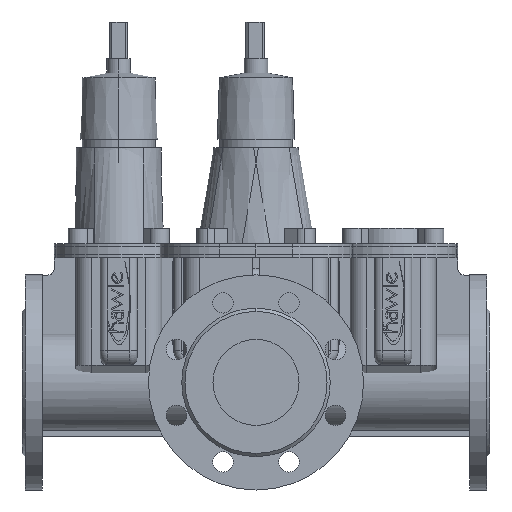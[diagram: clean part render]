
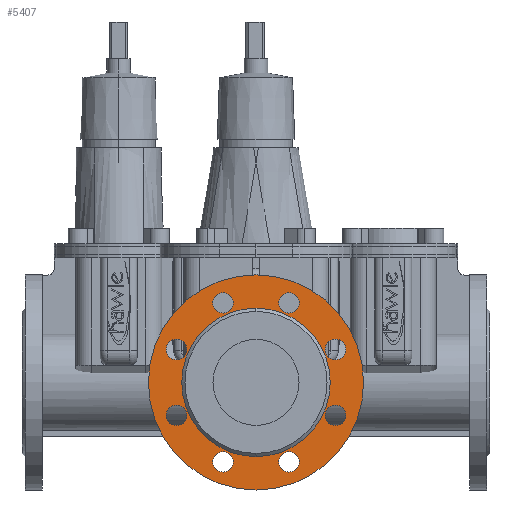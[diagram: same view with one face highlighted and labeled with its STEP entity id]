
A CAD part, left-side view. The second image highlights one B-rep face of the part: STEP entity #5407.
In plain terms, the highlighted planar face has unit normal (-1, 0, 0).
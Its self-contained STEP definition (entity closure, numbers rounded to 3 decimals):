
#5407=ADVANCED_FACE('',(#10454,#10455,#10456,#10457,#10458,#10459,#10460,#10461,#10462,#10463),#10464,.F.);
#10454=FACE_BOUND('',#17028,.T.);
#10455=FACE_BOUND('',#17029,.T.);
#10456=FACE_BOUND('',#17030,.T.);
#10457=FACE_BOUND('',#17031,.T.);
#10458=FACE_BOUND('',#17032,.T.);
#10459=FACE_BOUND('',#17033,.T.);
#10460=FACE_BOUND('',#17034,.T.);
#10461=FACE_BOUND('',#17035,.T.);
#10462=FACE_BOUND('',#17036,.T.);
#10463=FACE_OUTER_BOUND('',#17037,.T.);
#10464=PLANE('',#17038);
#17028=EDGE_LOOP('',(#27645,#27646));
#17029=EDGE_LOOP('',(#27647,#27648));
#17030=EDGE_LOOP('',(#27649,#27650));
#17031=EDGE_LOOP('',(#27651,#27652));
#17032=EDGE_LOOP('',(#27653,#27654));
#17033=EDGE_LOOP('',(#27655,#27656));
#17034=EDGE_LOOP('',(#27657,#27658));
#17035=EDGE_LOOP('',(#27659,#27660));
#17036=EDGE_LOOP('',(#27661,#27662));
#17037=EDGE_LOOP('',(#27663,#27664));
#17038=AXIS2_PLACEMENT_3D('',#27665,#27666,#27667);
#27645=ORIENTED_EDGE('',*,*,#36212,.T.);
#27646=ORIENTED_EDGE('',*,*,#36691,.T.);
#27647=ORIENTED_EDGE('',*,*,#37338,.T.);
#27648=ORIENTED_EDGE('',*,*,#37339,.T.);
#27649=ORIENTED_EDGE('',*,*,#37065,.T.);
#27650=ORIENTED_EDGE('',*,*,#37340,.T.);
#27651=ORIENTED_EDGE('',*,*,#34569,.T.);
#27652=ORIENTED_EDGE('',*,*,#37145,.T.);
#27653=ORIENTED_EDGE('',*,*,#36557,.T.);
#27654=ORIENTED_EDGE('',*,*,#36931,.T.);
#27655=ORIENTED_EDGE('',*,*,#37341,.T.);
#27656=ORIENTED_EDGE('',*,*,#35414,.T.);
#27657=ORIENTED_EDGE('',*,*,#37342,.T.);
#27658=ORIENTED_EDGE('',*,*,#37343,.T.);
#27659=ORIENTED_EDGE('',*,*,#34996,.T.);
#27660=ORIENTED_EDGE('',*,*,#33766,.T.);
#27661=ORIENTED_EDGE('',*,*,#37344,.T.);
#27662=ORIENTED_EDGE('',*,*,#37042,.T.);
#27663=ORIENTED_EDGE('',*,*,#35777,.F.);
#27664=ORIENTED_EDGE('',*,*,#35931,.F.);
#27665=CARTESIAN_POINT('',(3.0,0.0,0.));
#27666=DIRECTION('',(1.0,0.0,0.));
#27667=DIRECTION('',(0.,0.0,-1.0));
#33766=EDGE_CURVE('',#39692,#39690,#39693,.T.);
#34569=EDGE_CURVE('',#41030,#41034,#41036,.T.);
#34996=EDGE_CURVE('',#39690,#39692,#41728,.T.);
#35414=EDGE_CURVE('',#42395,#42393,#42396,.T.);
#35777=EDGE_CURVE('',#42958,#42961,#42962,.T.);
#35931=EDGE_CURVE('',#42961,#42958,#43197,.T.);
#36212=EDGE_CURVE('',#43588,#43592,#43594,.T.);
#36557=EDGE_CURVE('',#44074,#44078,#44080,.T.);
#36691=EDGE_CURVE('',#43592,#43588,#44269,.T.);
#36931=EDGE_CURVE('',#44078,#44074,#44583,.T.);
#37042=EDGE_CURVE('',#44725,#44723,#44726,.T.);
#37065=EDGE_CURVE('',#44753,#44755,#44757,.T.);
#37145=EDGE_CURVE('',#41034,#41030,#44863,.T.);
#37338=EDGE_CURVE('',#45116,#45117,#45118,.T.);
#37339=EDGE_CURVE('',#45117,#45116,#45119,.T.);
#37340=EDGE_CURVE('',#44755,#44753,#45120,.T.);
#37341=EDGE_CURVE('',#42393,#42395,#45121,.T.);
#37342=EDGE_CURVE('',#45122,#45123,#45124,.T.);
#37343=EDGE_CURVE('',#45123,#45122,#45125,.T.);
#37344=EDGE_CURVE('',#44723,#44725,#45126,.T.);
#39690=VERTEX_POINT('',#47898);
#39692=VERTEX_POINT('',#47901);
#39693=CIRCLE('',#47902,9.5);
#41030=VERTEX_POINT('',#49660);
#41034=VERTEX_POINT('',#49665);
#41036=CIRCLE('',#49668,9.5);
#41728=CIRCLE('',#50577,9.5);
#42393=VERTEX_POINT('',#51430);
#42395=VERTEX_POINT('',#51433);
#42396=CIRCLE('',#51434,9.5);
#42958=VERTEX_POINT('',#52164);
#42961=VERTEX_POINT('',#52168);
#42962=CIRCLE('',#52169,100.0);
#43197=CIRCLE('',#52481,100.0);
#43588=VERTEX_POINT('',#52997);
#43592=VERTEX_POINT('',#53002);
#43594=CIRCLE('',#53005,9.5);
#44074=VERTEX_POINT('',#53629);
#44078=VERTEX_POINT('',#53634);
#44080=CIRCLE('',#53637,9.5);
#44269=CIRCLE('',#53884,9.5);
#44583=CIRCLE('',#54288,9.5);
#44723=VERTEX_POINT('',#54474);
#44725=VERTEX_POINT('',#54477);
#44726=CIRCLE('',#54478,40.0);
#44753=VERTEX_POINT('',#54512);
#44755=VERTEX_POINT('',#54515);
#44757=CIRCLE('',#54518,9.5);
#44863=CIRCLE('',#54656,9.5);
#45116=VERTEX_POINT('',#54992);
#45117=VERTEX_POINT('',#54993);
#45118=CIRCLE('',#54994,9.5);
#45119=CIRCLE('',#54995,9.5);
#45120=CIRCLE('',#54996,9.5);
#45121=CIRCLE('',#54997,9.5);
#45122=VERTEX_POINT('',#54998);
#45123=VERTEX_POINT('',#54999);
#45124=CIRCLE('',#55000,9.5);
#45125=CIRCLE('',#55001,9.5);
#45126=CIRCLE('',#55002,40.0);
#47898=CARTESIAN_POINT('',(3.0,30.615,64.41));
#47901=CARTESIAN_POINT('',(3.,30.615,83.41));
#47902=AXIS2_PLACEMENT_3D('',#57592,#57593,#57594);
#49660=CARTESIAN_POINT('',(3.0,-30.615,-83.41));
#49665=CARTESIAN_POINT('',(3.0,-30.615,-64.41));
#49668=AXIS2_PLACEMENT_3D('',#58624,#58625,#58626);
#50577=AXIS2_PLACEMENT_3D('',#59168,#59169,#59170);
#51430=CARTESIAN_POINT('',(3.0,-73.91,21.115));
#51433=CARTESIAN_POINT('',(3.0,-73.91,40.115));
#51434=AXIS2_PLACEMENT_3D('',#59756,#59757,#59758);
#52164=CARTESIAN_POINT('',(3.,0.0,-100.0));
#52168=CARTESIAN_POINT('',(3.,0.,100.0));
#52169=AXIS2_PLACEMENT_3D('',#60270,#60271,#60272);
#52481=AXIS2_PLACEMENT_3D('',#60470,#60471,#60472);
#52997=CARTESIAN_POINT('',(3.0,73.91,21.115));
#53002=CARTESIAN_POINT('',(3.0,73.91,40.115));
#53005=AXIS2_PLACEMENT_3D('',#60801,#60802,#60803);
#53629=CARTESIAN_POINT('',(3.0,-73.91,-40.115));
#53634=CARTESIAN_POINT('',(3.0,-73.91,-21.115));
#53637=AXIS2_PLACEMENT_3D('',#61241,#61242,#61243);
#53884=AXIS2_PLACEMENT_3D('',#61410,#61411,#61412);
#54288=AXIS2_PLACEMENT_3D('',#61716,#61717,#61718);
#54474=CARTESIAN_POINT('',(3.0,0.0,-40.0));
#54477=CARTESIAN_POINT('',(3.0,0.,40.0));
#54478=AXIS2_PLACEMENT_3D('',#61823,#61824,#61825);
#54512=CARTESIAN_POINT('',(3.0,30.615,-83.41));
#54515=CARTESIAN_POINT('',(3.0,30.615,-64.41));
#54518=AXIS2_PLACEMENT_3D('',#61850,#61851,#61852);
#54656=AXIS2_PLACEMENT_3D('',#61939,#61940,#61941);
#54992=CARTESIAN_POINT('',(3.0,73.91,-40.115));
#54993=CARTESIAN_POINT('',(3.0,73.91,-21.115));
#54994=AXIS2_PLACEMENT_3D('',#62169,#62170,#62171);
#54995=AXIS2_PLACEMENT_3D('',#62172,#62173,#62174);
#54996=AXIS2_PLACEMENT_3D('',#62175,#62176,#62177);
#54997=AXIS2_PLACEMENT_3D('',#62178,#62179,#62180);
#54998=CARTESIAN_POINT('',(3.0,-30.615,64.41));
#54999=CARTESIAN_POINT('',(3.,-30.615,83.41));
#55000=AXIS2_PLACEMENT_3D('',#62181,#62182,#62183);
#55001=AXIS2_PLACEMENT_3D('',#62184,#62185,#62186);
#55002=AXIS2_PLACEMENT_3D('',#62187,#62188,#62189);
#57592=CARTESIAN_POINT('',(3.0,30.615,73.91));
#57593=DIRECTION('',(1.0,0.0,0.));
#57594=DIRECTION('',(0.,0.0,-1.0));
#58624=CARTESIAN_POINT('',(3.0,-30.615,-73.91));
#58625=DIRECTION('',(1.0,0.0,0.));
#58626=DIRECTION('',(0.,0.0,-1.0));
#59168=CARTESIAN_POINT('',(3.0,30.615,73.91));
#59169=DIRECTION('',(1.0,0.0,0.));
#59170=DIRECTION('',(0.,0.0,-1.0));
#59756=CARTESIAN_POINT('',(3.0,-73.91,30.615));
#59757=DIRECTION('',(1.0,0.0,0.));
#59758=DIRECTION('',(0.,0.0,-1.0));
#60270=CARTESIAN_POINT('',(3.0,0.0,0.));
#60271=DIRECTION('',(1.0,0.0,0.));
#60272=DIRECTION('',(0.,0.0,-1.0));
#60470=CARTESIAN_POINT('',(3.0,0.0,0.));
#60471=DIRECTION('',(1.0,0.0,0.));
#60472=DIRECTION('',(0.,0.0,-1.0));
#60801=CARTESIAN_POINT('',(3.0,73.91,30.615));
#60802=DIRECTION('',(1.0,0.0,0.));
#60803=DIRECTION('',(0.,0.0,-1.0));
#61241=CARTESIAN_POINT('',(3.0,-73.91,-30.615));
#61242=DIRECTION('',(1.0,0.0,0.));
#61243=DIRECTION('',(0.,0.0,-1.0));
#61410=CARTESIAN_POINT('',(3.0,73.91,30.615));
#61411=DIRECTION('',(1.0,0.0,0.));
#61412=DIRECTION('',(0.,0.0,-1.0));
#61716=CARTESIAN_POINT('',(3.0,-73.91,-30.615));
#61717=DIRECTION('',(1.0,0.0,0.));
#61718=DIRECTION('',(0.,0.0,-1.0));
#61823=CARTESIAN_POINT('',(3.0,0.0,0.));
#61824=DIRECTION('',(1.0,0.0,0.));
#61825=DIRECTION('',(0.,0.0,-1.0));
#61850=CARTESIAN_POINT('',(3.0,30.615,-73.91));
#61851=DIRECTION('',(1.0,0.0,0.));
#61852=DIRECTION('',(0.,0.0,-1.0));
#61939=CARTESIAN_POINT('',(3.0,-30.615,-73.91));
#61940=DIRECTION('',(1.0,0.0,0.));
#61941=DIRECTION('',(0.,0.0,-1.0));
#62169=CARTESIAN_POINT('',(3.0,73.91,-30.615));
#62170=DIRECTION('',(1.0,0.0,0.));
#62171=DIRECTION('',(0.,0.0,-1.0));
#62172=CARTESIAN_POINT('',(3.0,73.91,-30.615));
#62173=DIRECTION('',(1.0,0.0,0.));
#62174=DIRECTION('',(0.,0.0,-1.0));
#62175=CARTESIAN_POINT('',(3.0,30.615,-73.91));
#62176=DIRECTION('',(1.0,0.0,0.));
#62177=DIRECTION('',(0.,0.0,-1.0));
#62178=CARTESIAN_POINT('',(3.0,-73.91,30.615));
#62179=DIRECTION('',(1.0,0.0,0.));
#62180=DIRECTION('',(0.,0.0,-1.0));
#62181=CARTESIAN_POINT('',(3.0,-30.615,73.91));
#62182=DIRECTION('',(1.0,0.0,0.));
#62183=DIRECTION('',(0.,0.0,-1.0));
#62184=CARTESIAN_POINT('',(3.0,-30.615,73.91));
#62185=DIRECTION('',(1.0,0.0,0.));
#62186=DIRECTION('',(0.,0.0,-1.0));
#62187=CARTESIAN_POINT('',(3.0,0.0,0.));
#62188=DIRECTION('',(1.0,0.0,0.));
#62189=DIRECTION('',(0.,0.0,-1.0));
